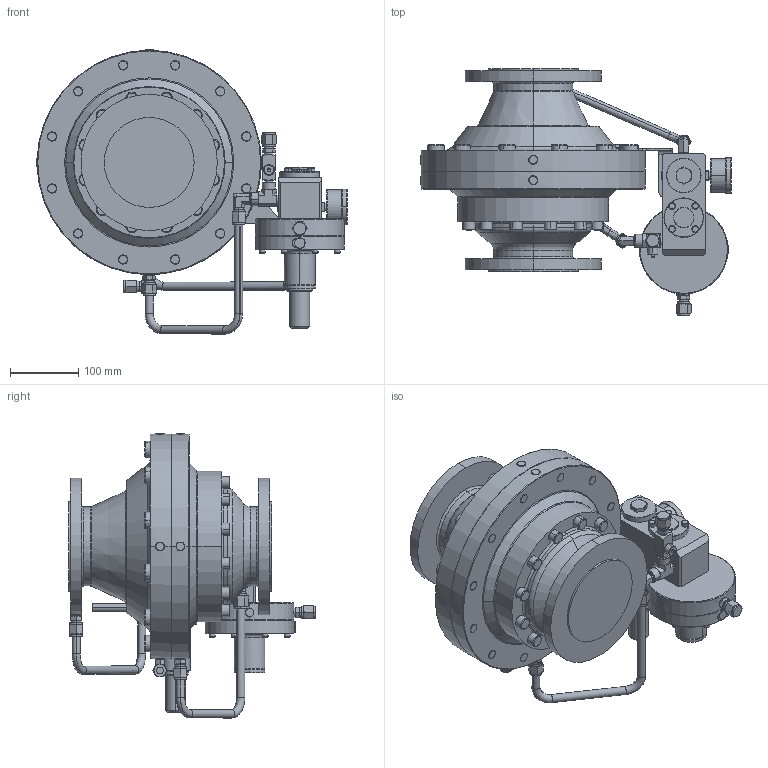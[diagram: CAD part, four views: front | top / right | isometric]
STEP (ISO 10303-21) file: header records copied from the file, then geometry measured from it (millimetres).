
FILE_DESCRIPTION((''),'2;1');
FILE_NAME('HORUS_3-PN16-SC_ASM_S_SW0002','2019-04-29T',('jjunior'),(''),'PRO/ENGINEER BY PARAMETRIC TECHNOLOGY CORPORATION, 2010160','PRO/ENGINEER BY PARAMETRIC TECHNOLOGY CORPORATION, 2010160','');
FILE_SCHEMA(('CONFIG_CONTROL_DESIGN'));
Length unit declared in the file: millimetre
Products named in the file (1): HORUS_3-PN16-SC_ASM_S_SW0002
Bounding box: 455.58 x 361.95 x 416.7 mm (x, y, z)
Volume: 7848703.7 mm3; surface area: 985268.7 mm2
Topology: 2 solids, 2 shells, 1743 faces, 3940 edges, 2403 vertices
Faces by surface type: cylinder 577, cone 480, plane 452, torus 216, bspline 18
Entity records: 55195 total; most frequent: CARTESIAN_POINT 15729, DIRECTION 8804, ORIENTED_EDGE 7836, EDGE_CURVE 3918, AXIS2_PLACEMENT_3D 3773, VERTEX_POINT 2403, CIRCLE 2048, EDGE_LOOP 2017
